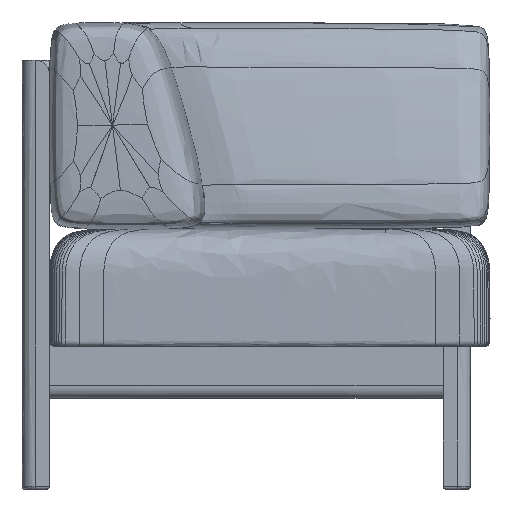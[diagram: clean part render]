
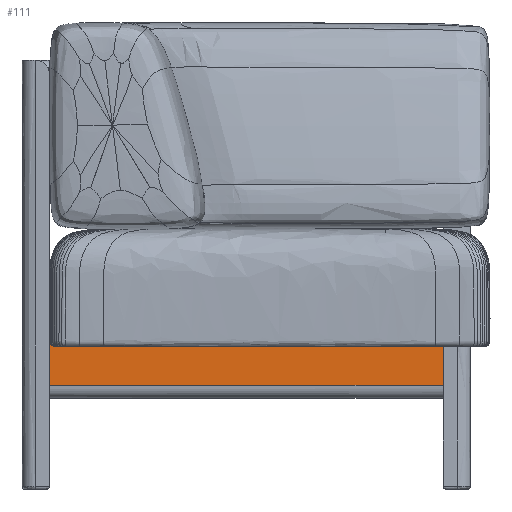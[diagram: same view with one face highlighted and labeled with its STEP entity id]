
A CAD part, left-side view. The second image highlights one B-rep face of the part: STEP entity #111.
In plain terms, the highlighted free-form (B-spline) face has degree [3, 3] with [4, 4] control points.
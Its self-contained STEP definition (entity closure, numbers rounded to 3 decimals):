
#111=ADVANCED_FACE('',(#391),#4177,.T.);
#391=FACE_OUTER_BOUND('',#674,.T.);
#674=EDGE_LOOP('',(#1200,#1201,#1202,#1203,#1204,#1205));
#1200=ORIENTED_EDGE('',*,*,#2473,.T.);
#1201=ORIENTED_EDGE('',*,*,#2447,.F.);
#1202=ORIENTED_EDGE('',*,*,#2443,.T.);
#1203=ORIENTED_EDGE('',*,*,#2558,.F.);
#1204=ORIENTED_EDGE('',*,*,#2569,.T.);
#1205=ORIENTED_EDGE('',*,*,#2559,.T.);
#2443=EDGE_CURVE('',#3788,#3787,#3149,.T.);
#2447=EDGE_CURVE('',#3788,#3809,#3153,.T.);
#2473=EDGE_CURVE('',#3811,#3809,#3179,.T.);
#2558=EDGE_CURVE('',#3856,#3787,#3262,.T.);
#2559=EDGE_CURVE('',#3858,#3811,#3263,.T.);
#2569=EDGE_CURVE('',#3856,#3858,#2997,.T.);
#2997=(
BOUNDED_CURVE()
B_SPLINE_CURVE(2,(#10498,#10499,#10500),.UNSPECIFIED.,.F.,.F.)
B_SPLINE_CURVE_WITH_KNOTS((3,3),(-14.137,0.),.UNSPECIFIED.)
CURVE()
GEOMETRIC_REPRESENTATION_ITEM()
RATIONAL_B_SPLINE_CURVE((1.,0.707,1.))
REPRESENTATION_ITEM('')
);
#3149=B_SPLINE_CURVE_WITH_KNOTS('',3,(#9719,#9720,#9721,#9722),
 .UNSPECIFIED.,.F.,.F.,(4,4),(-60.,0.),.UNSPECIFIED.);
#3153=B_SPLINE_CURVE_WITH_KNOTS('',3,(#9750,#9751,#9752,#9753),
 .UNSPECIFIED.,.F.,.F.,(4,4),(-1.,0.),.UNSPECIFIED.);
#3179=B_SPLINE_CURVE_WITH_KNOTS('',3,(#10013,#10014,#10015,#10016),
 .UNSPECIFIED.,.F.,.F.,(4,4),(-1.,0.),.UNSPECIFIED.);
#3262=B_SPLINE_CURVE_WITH_KNOTS('',3,(#10469,#10470,#10471,#10472),
 .UNSPECIFIED.,.F.,.F.,(4,4),(-0.985,0.),.UNSPECIFIED.);
#3263=B_SPLINE_CURVE_WITH_KNOTS('',1,(#10473,#10474),.UNSPECIFIED.,.F.,
 .F.,(2,2),(101.,110.),.UNSPECIFIED.);
#3787=VERTEX_POINT('',#8325);
#3788=VERTEX_POINT('',#8326);
#3809=VERTEX_POINT('',#8347);
#3811=VERTEX_POINT('',#8349);
#3856=VERTEX_POINT('',#8394);
#3858=VERTEX_POINT('',#8396);
#4177=B_SPLINE_SURFACE_WITH_KNOTS('',3,3,((#7329,#7330,#7331,#7332),(#7333,
#7334,#7335,#7336),(#7337,#7338,#7339,#7340),(#7341,#7342,#7343,#7344)),
 .UNSPECIFIED.,.F.,.F.,.F.,(4,4),(4,4),(0.,1.),(0.,1.),.UNSPECIFIED.);
#7329=CARTESIAN_POINT('',(-326.733,-286.332,160.));
#7330=CARTESIAN_POINT('',(-326.733,-84.332,160.));
#7331=CARTESIAN_POINT('',(-326.733,117.668,160.));
#7332=CARTESIAN_POINT('',(-326.733,319.668,160.));
#7333=CARTESIAN_POINT('',(-326.733,-286.332,183.));
#7334=CARTESIAN_POINT('',(-326.733,-84.332,183.));
#7335=CARTESIAN_POINT('',(-326.733,117.668,183.));
#7336=CARTESIAN_POINT('',(-326.733,319.668,183.));
#7337=CARTESIAN_POINT('',(-326.733,-286.332,206.));
#7338=CARTESIAN_POINT('',(-326.733,-84.332,206.));
#7339=CARTESIAN_POINT('',(-326.733,117.668,206.));
#7340=CARTESIAN_POINT('',(-326.733,319.668,206.));
#7341=CARTESIAN_POINT('',(-326.733,-286.332,229.));
#7342=CARTESIAN_POINT('',(-326.733,-84.332,229.));
#7343=CARTESIAN_POINT('',(-326.733,117.668,229.));
#7344=CARTESIAN_POINT('',(-326.733,319.668,229.));
#8325=CARTESIAN_POINT('',(-326.733,-286.332,220.));
#8326=CARTESIAN_POINT('',(-326.733,-286.332,160.));
#8347=CARTESIAN_POINT('',(-326.733,319.668,160.));
#8349=CARTESIAN_POINT('',(-326.733,319.668,220.));
#8394=CARTESIAN_POINT('',(-326.733,310.668,220.));
#8396=CARTESIAN_POINT('',(-326.733,319.668,229.));
#9719=CARTESIAN_POINT('',(-326.733,-286.332,160.));
#9720=CARTESIAN_POINT('',(-326.733,-286.332,180.));
#9721=CARTESIAN_POINT('',(-326.733,-286.332,200.));
#9722=CARTESIAN_POINT('',(-326.733,-286.332,220.));
#9750=CARTESIAN_POINT('',(-326.733,-286.332,160.));
#9751=CARTESIAN_POINT('',(-326.733,-84.332,160.));
#9752=CARTESIAN_POINT('',(-326.733,117.668,160.));
#9753=CARTESIAN_POINT('',(-326.733,319.668,160.));
#10013=CARTESIAN_POINT('',(-326.733,319.668,220.));
#10014=CARTESIAN_POINT('',(-326.733,319.668,200.));
#10015=CARTESIAN_POINT('',(-326.733,319.668,180.));
#10016=CARTESIAN_POINT('',(-326.733,319.668,160.));
#10469=CARTESIAN_POINT('',(-326.733,310.668,220.));
#10470=CARTESIAN_POINT('',(-326.733,111.668,220.));
#10471=CARTESIAN_POINT('',(-326.733,-87.332,220.));
#10472=CARTESIAN_POINT('',(-326.733,-286.332,220.));
#10473=CARTESIAN_POINT('',(-326.733,319.668,229.));
#10474=CARTESIAN_POINT('',(-326.733,319.668,220.));
#10498=CARTESIAN_POINT('',(-326.733,310.668,220.));
#10499=CARTESIAN_POINT('',(-326.733,319.668,220.));
#10500=CARTESIAN_POINT('',(-326.733,319.668,229.));
